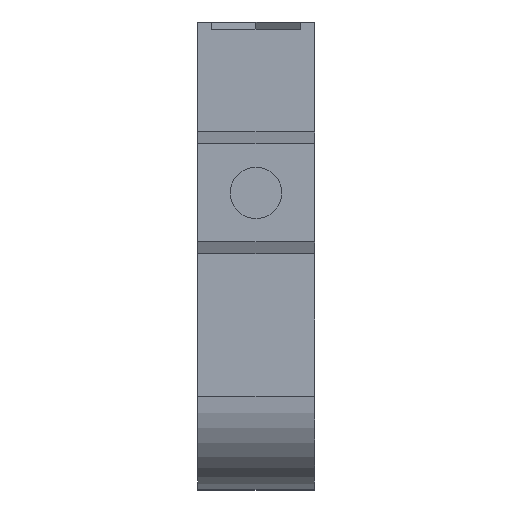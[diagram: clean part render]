
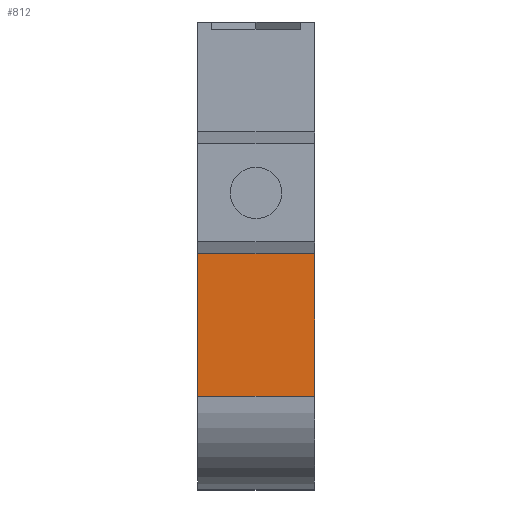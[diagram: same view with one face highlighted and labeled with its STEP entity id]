
A CAD part, front view. The second image highlights one B-rep face of the part: STEP entity #812.
In plain terms, the highlighted planar face has unit normal (0, -1, 0).
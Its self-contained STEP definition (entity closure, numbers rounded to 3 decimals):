
#240 = CARTESIAN_POINT ( 'NONE',  ( -21., 5., 5. ) ) ;
#241 = DIRECTION ( 'NONE',  ( 0., 0., -1. ) ) ;
#242 = VECTOR ( 'NONE', #241, 1000. ) ;
#243 = CARTESIAN_POINT ( 'NONE',  ( -21., 5., 5. ) ) ;
#244 = LINE ( 'NONE', #243, #242 ) ;
#245 = CARTESIAN_POINT ( 'NONE',  ( -21., 5., 0. ) ) ;
#425 = DIRECTION ( 'NONE',  ( 1., 0., 0. ) ) ;
#426 = VECTOR ( 'NONE', #425, 1000. ) ;
#427 = CARTESIAN_POINT ( 'NONE',  ( -21., 5., 5. ) ) ;
#428 = LINE ( 'NONE', #427, #426 ) ;
#429 = CARTESIAN_POINT ( 'NONE',  ( -14.9, 5., 5. ) ) ;
#430 = DIRECTION ( 'NONE',  ( 0., 0., -1. ) ) ;
#431 = VECTOR ( 'NONE', #430, 1000. ) ;
#432 = CARTESIAN_POINT ( 'NONE',  ( -14.9, 5., 5. ) ) ;
#433 = LINE ( 'NONE', #432, #431 ) ;
#434 = CARTESIAN_POINT ( 'NONE',  ( -14.9, 5., 0. ) ) ;
#435 = DIRECTION ( 'NONE',  ( 1., 0., 0. ) ) ;
#436 = VECTOR ( 'NONE', #435, 1000. ) ;
#437 = CARTESIAN_POINT ( 'NONE',  ( -21., 5., 0. ) ) ;
#438 = LINE ( 'NONE', #437, #436 ) ;
#439 = DIRECTION ( 'NONE',  ( 0., 0., 1. ) ) ;
#440 = DIRECTION ( 'NONE',  ( 0., 1., 0. ) ) ;
#441 = CARTESIAN_POINT ( 'NONE',  ( -21., 5., 5. ) ) ;
#442 = AXIS2_PLACEMENT_3D ( 'NONE', #441, #440, #439 ) ;
#443 = PLANE ( 'NONE',  #442 ) ;
#444 = FACE_OUTER_BOUND ( 'NONE', #813, .T. ) ;
#695 = VERTEX_POINT ( 'NONE', #245 ) ;
#697 = EDGE_CURVE ( 'NONE', #698, #695, #244, .T. ) ;
#698 = VERTEX_POINT ( 'NONE', #240 ) ;
#812 = ADVANCED_FACE ( 'NONE', ( #444 ), #443, .F. ) ;
#813 = EDGE_LOOP ( 'NONE', ( #814, #817, #820, #822 ) ) ;
#814 = ORIENTED_EDGE ( 'NONE', *, *, #815, .T. ) ;
#815 = EDGE_CURVE ( 'NONE', #695, #816, #438, .T. ) ;
#816 = VERTEX_POINT ( 'NONE', #434 ) ;
#817 = ORIENTED_EDGE ( 'NONE', *, *, #818, .F. ) ;
#818 = EDGE_CURVE ( 'NONE', #819, #816, #433, .T. ) ;
#819 = VERTEX_POINT ( 'NONE', #429 ) ;
#820 = ORIENTED_EDGE ( 'NONE', *, *, #821, .F. ) ;
#821 = EDGE_CURVE ( 'NONE', #698, #819, #428, .T. ) ;
#822 = ORIENTED_EDGE ( 'NONE', *, *, #697, .T. ) ;
